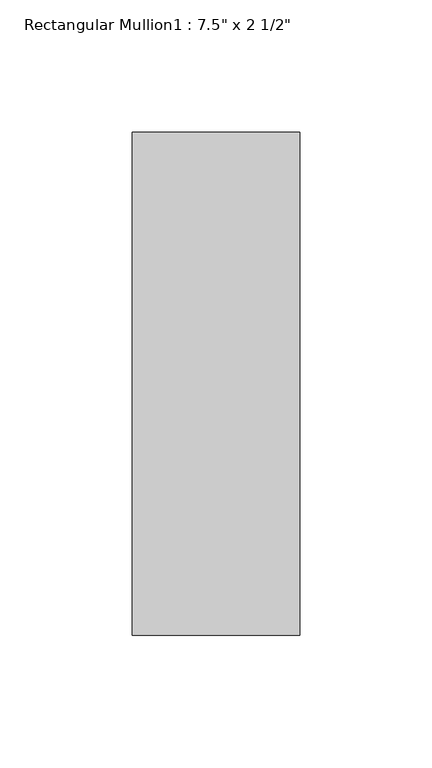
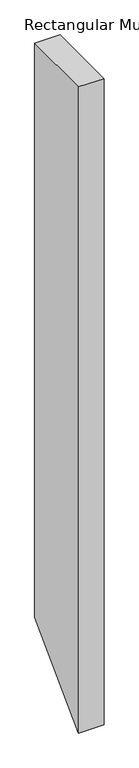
"""IFC4 building model written with IfcOpenShell, lengths in millimetres: member geometry."""

from ifc_helpers import new_model, si_unit, frame, origin, place, context, project, spatial, polyline, outline, extrude, source, transform, mapped, element, save


def member_55eee8df(model_context):
    return source(origin(), model_context, "Body", "SweptSolid", [
        extrude(outline(polyline([(-25.4, 0.0), (165.1, 0.0), (165.1, -1519.8887778), (-25.4, -1710.3887778), (-25.4, 0.0)])), frame((-63.5, 0.0, 0.0), z_axis=(1.0, 0.0, 0.0), x_axis=(0.0, 1.0, 0.0)), (0.0, 0.0, 1.0), 63.5),
    ])


if __name__ == "__main__":
    model = new_model("IFC4")
    model_context = context("Model", 3, world=origin())
    ifc_project = project(units=[si_unit("LENGTHUNIT", "METRE", prefix="MILLI")], contexts=[model_context])
    site = spatial("IfcSite", under=ifc_project)
    building = spatial("IfcBuilding", under=site)
    placement = place(None, origin())
    member_shape = member_55eee8df(model_context)
    element("IfcMember", 1, ObjectType="Rectangular Mullion1 : 7.5\" x 2 1/2\"", at=placement, inside=building, context=model_context, shape_type="MappedRepresentation", body=[
        mapped(member_shape, transform((0.0, 0.0, 0.0), x_axis=(1.0, 0.0, 0.0), y_axis=(0.0, 1.0, 0.0), z_axis=(0.0, 0.0, 1.0))),
    ])
    save(model, "model.ifc")
